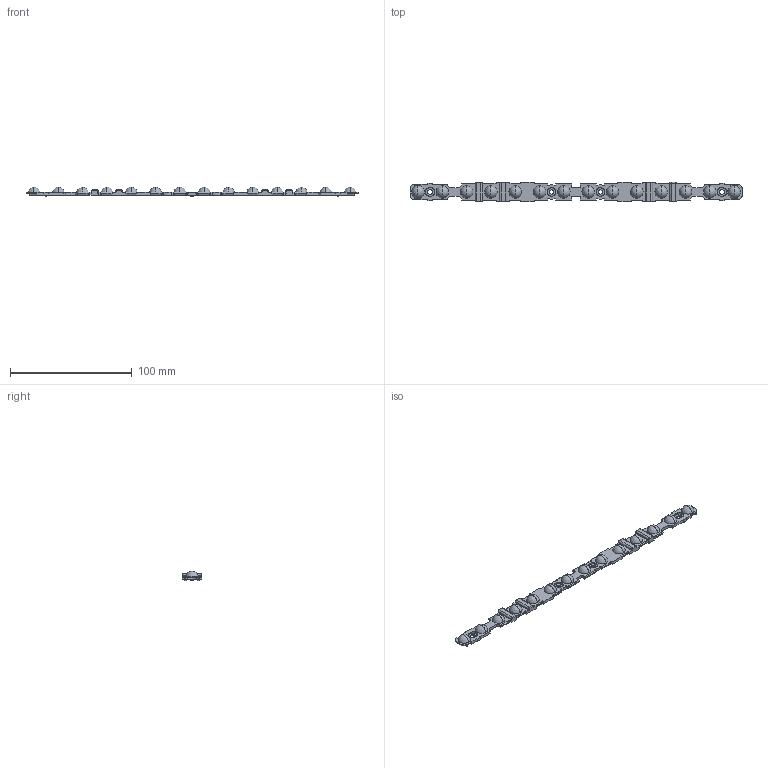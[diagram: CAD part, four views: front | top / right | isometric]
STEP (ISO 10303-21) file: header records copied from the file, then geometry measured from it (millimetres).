
FILE_DESCRIPTION(('Creo Elements/Direct Modeling STEP Export'),'2;1');
FILE_NAME('91651.stp','2025-11-20T14:48:16',(''),(''),'Creo Elements/Direct Modeling STEP processor for AP214 (Solid Model)','Creo Elements/Direct Modeling 20.8 17-May-2025 (C) Parametric Technology GmbH','');
FILE_SCHEMA(('AUTOMOTIVE_DESIGN { 1 0 10303 214 1 1 1 1 }'));
Length unit declared in the file: millimetre
Products named in the file (2): 91651
Assembly tree (1 placements, depth 2):
  91651
    91651
Bounding box: 273 x 16 x 7.9 mm (x, y, z)
Volume: 9557.1 mm3; surface area: 10989.1 mm2
Topology: 1 solids, 1 shells, 672 faces, 1847 edges, 1150 vertices
Faces by surface type: plane 314, cylinder 149, cone 88, bspline 51, torus 42, revolution 28
Entity records: 36316 total; most frequent: CARTESIAN_POINT 15173, ORIENTED_EDGE 3582, DIRECTION 2871, EDGE_CURVE 1791, VERTEX_POINT 1150, VECTOR 973, LINE 973, AXIS2_PLACEMENT_3D 935
